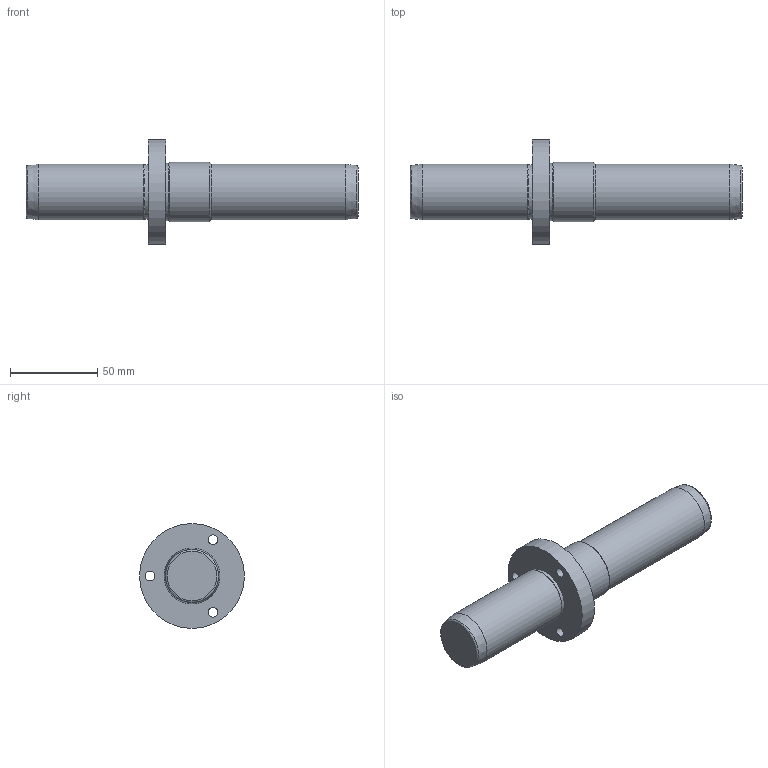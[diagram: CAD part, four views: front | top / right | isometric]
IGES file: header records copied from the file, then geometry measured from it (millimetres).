
Global section: file name: CEAS3280110.ipt; native system: Autodesk Inventor 2021; preprocessor: unknown; author: SM; date: 20211206.123648; units: millimetre
Bounding box: 190 x 60 x 60 mm (x, y, z)
Volume: 173116.9 mm3; surface area: 26203.6 mm2
Topology: 1 solids, 1 shells, 26 faces, 60 edges, 41 vertices
Faces by surface type: revolution 8, plane 7, cylinder 6, cone 5
Full cylindrical faces by diameter (mm): 31 x1, 32 x2, 33 x1, 34 x1, 60 x1
